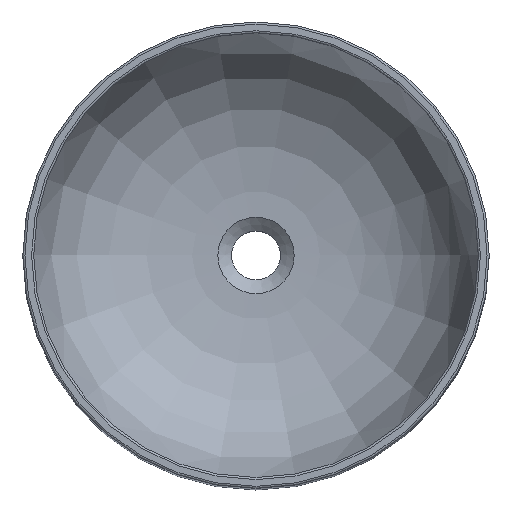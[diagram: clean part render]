
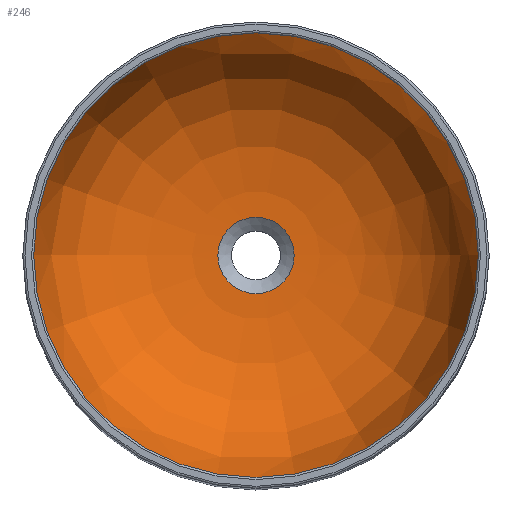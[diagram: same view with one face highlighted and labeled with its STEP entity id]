
A CAD part, top view. The second image highlights one B-rep face of the part: STEP entity #246.
In plain terms, the highlighted face is a revolution surface.
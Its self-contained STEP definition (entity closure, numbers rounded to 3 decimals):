
#55=SURFACE_OF_REVOLUTION('',#291,#56);
#56=AXIS1_PLACEMENT('',#1625,#1113);
#246=ADVANCED_FACE('',(#326,#327),#55,.T.);
#291=B_SPLINE_CURVE_WITH_KNOTS('',5,(#1619,#1620,#1621,#1622,#1623,#1624),
 .UNSPECIFIED.,.F.,.F.,(6,6),(0.,1.),.UNSPECIFIED.);
#326=FACE_BOUND('',#384,.T.);
#327=FACE_BOUND('',#385,.T.);
#384=EDGE_LOOP('',(#524));
#385=EDGE_LOOP('',(#525));
#524=ORIENTED_EDGE('',*,*,#783,.T.);
#525=ORIENTED_EDGE('',*,*,#784,.T.);
#702=VERTEX_POINT('',#1616);
#703=VERTEX_POINT('',#1618);
#783=EDGE_CURVE('',#702,#702,#830,.T.);
#784=EDGE_CURVE('',#703,#703,#831,.T.);
#830=CIRCLE('',#908,209.709);
#831=CIRCLE('',#909,36.);
#908=AXIS2_PLACEMENT_3D('',#1615,#1109,#1110);
#909=AXIS2_PLACEMENT_3D('',#1617,#1111,#1112);
#1109=DIRECTION('',(0.,0.,1.));
#1110=DIRECTION('',(1.,0.,0.));
#1111=DIRECTION('',(0.,0.,-1.));
#1112=DIRECTION('',(-1.,0.,0.));
#1113=DIRECTION('',(0.,0.,1.));
#1615=CARTESIAN_POINT('',(0.,0.,128.348));
#1616=CARTESIAN_POINT('',(209.709,0.,128.348));
#1617=CARTESIAN_POINT('',(0.,0.,0.));
#1618=CARTESIAN_POINT('',(-36.,0.,0.));
#1619=CARTESIAN_POINT('',(210.,0.,130.));
#1620=CARTESIAN_POINT('',(201.939,0.,84.285));
#1621=CARTESIAN_POINT('',(193.879,0.,38.571));
#1622=CARTESIAN_POINT('',(131.802,0.,1.672));
#1623=CARTESIAN_POINT('',(83.901,0.,0.836));
#1624=CARTESIAN_POINT('',(36.,0.,0.));
#1625=CARTESIAN_POINT('',(0.,0.,0.));
